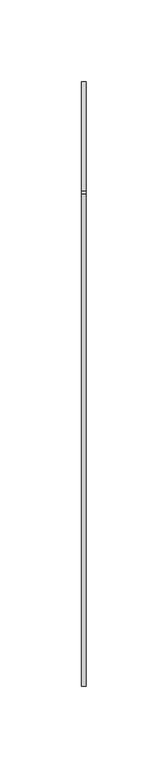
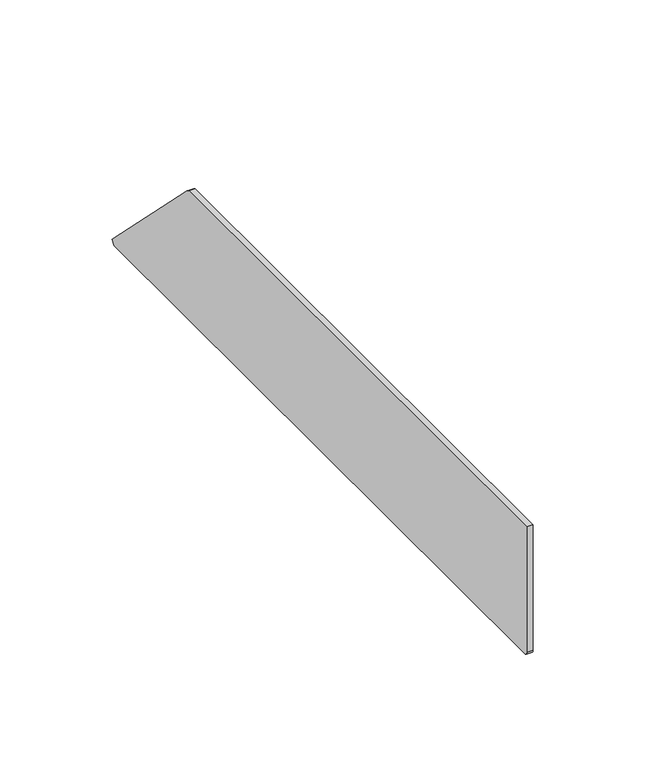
"""IFC4 building model written with IfcOpenShell, lengths in millimetres: cable carrier fitting geometry, Electrical_Installation_Hager_End-Piece : Electrical_Installation_Hager_End-Piece."""

from ifc_helpers import new_model, si_unit, point, frame, frame_2d, origin, place, context, project, spatial, polyline, circle_curve, trimmed, segment, composite_curve, outline, extrude, source, transform, mapped, element, save


def cable_carrier_fitting_88479c70(model_context):
    return source(origin(), model_context, "Body", "SweptSolid", [
        extrude(outline(composite_curve([segment(polyline([(-150.0, -33.0), (-150.0, 35.5), (151.7124549, 35.5)]), True, "CONTINUOUS"), segment(trimmed(circle_curve(frame_2d((150.5004738, 31.6648514)), 4.0220969), [point((151.7124549, 35.5))], [point((153.5142136, 34.3284271))], False, "CARTESIAN"), True, "CONTINUOUS"), segment(polyline([(153.5142136, 34.3284271), (220.7213203, -32.8786797), (218.6, -35.0), (-148.0, -35.0)]), True, "CONTINUOUS"), segment(trimmed(circle_curve(frame_2d((-148.0, -33.0)), 2.0), [point((-148.0, -35.0))], [point((-150.0, -33.0))], False, "CARTESIAN"), True, "CONTINUOUS")], self_intersect=False)), frame((0.0, 0.0, 0.0), z_axis=(1.0, 0.0, 0.0), x_axis=(0.0, 1.0, 0.0)), (0.0, 0.0, 1.0), 3.0),
    ])


if __name__ == "__main__":
    model = new_model("IFC4")
    model_context = context("Model", 3, world=origin())
    ifc_project = project(units=[si_unit("LENGTHUNIT", "METRE", prefix="MILLI")], contexts=[model_context])
    site = spatial("IfcSite", under=ifc_project)
    building = spatial("IfcBuilding", under=site)
    placement = place(None, origin())
    cable_carrier_fitting_shape = cable_carrier_fitting_88479c70(model_context)
    element("IfcCableCarrierFitting", 1, ObjectType="Electrical_Installation_Hager_End-Piece : Electrical_Installation_Hager_End-Piece", at=placement, inside=building, context=model_context, shape_type="MappedRepresentation", body=[
        mapped(cable_carrier_fitting_shape, transform((0.0, 0.0, 0.0), x_axis=(1.0, 0.0, 0.0), y_axis=(0.0, 1.0, 0.0), z_axis=(0.0, 0.0, 1.0))),
    ])
    save(model, "model.ifc")
